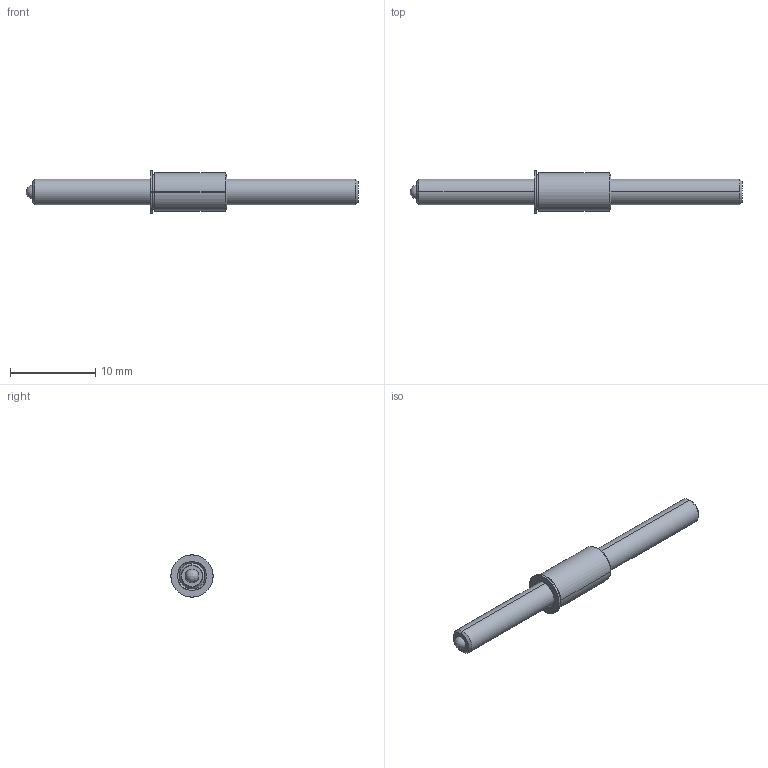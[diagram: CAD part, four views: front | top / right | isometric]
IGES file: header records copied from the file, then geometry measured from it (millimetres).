
Start section: SolidWorks IGES file using analytic representation for surfaces
Global section: file name: C:\Users\workpc\Desktop\KMA Solidworks\TSBM3-25-39_9.IGS; native system: SolidWorks 2013; preprocessor: SolidWorks 2013; author: workpc; date: 130315.061639; units: inch
Bounding box: 39 x 4.95 x 4.95 mm (x, y, z)
Surface area: 542.7 mm2 (no closed solid volume)
Topology: 0 solids, 0 shells, 32 faces, 446 edges, 442 vertices
Faces by surface type: revolution 20, bspline 12
